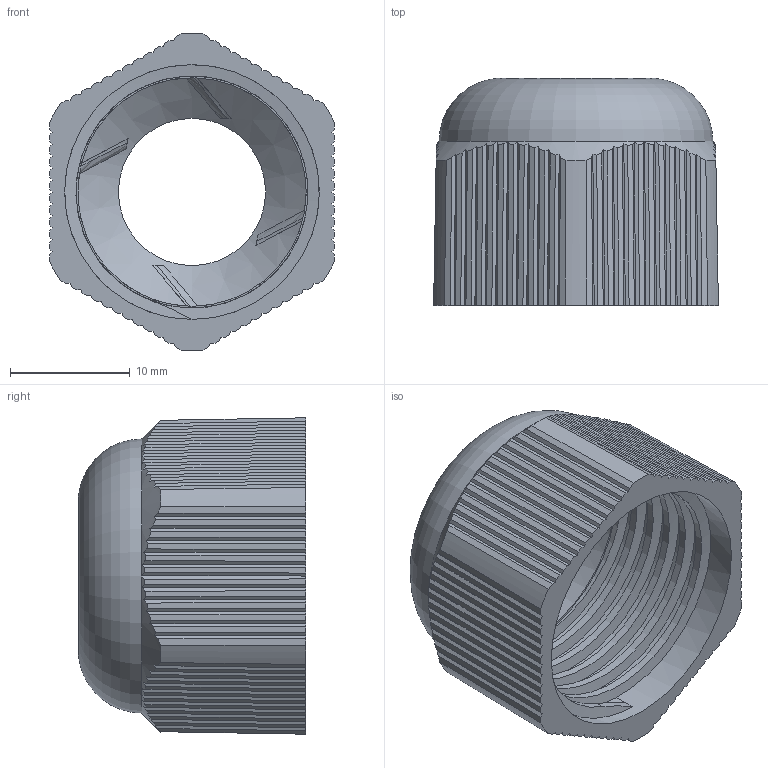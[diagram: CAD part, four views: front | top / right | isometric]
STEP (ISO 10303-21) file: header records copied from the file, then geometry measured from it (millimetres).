
FILE_DESCRIPTION (( 'STEP AP203' ), '1' );
FILE_NAME ('Ãàéêà öàíãîâàÿ (PG13.5).STEP', '2020-08-06T09:28:59', ( '' ), ( '' ), 'SwSTEP 2.0', 'SolidWorks 2019', '' );
FILE_SCHEMA (( 'CONFIG_CONTROL_DESIGN' ));
Length unit declared in the file: millimetre
Products named in the file (1): Ãàéêà öàíãîâàÿ (PG13.5)
Bounding box: 23.8 x 18.97 x 26.49 mm (x, y, z)
Volume: 2757.4 mm3; surface area: 3704.4 mm2
Topology: 1 solids, 1 shells, 247 faces, 729 edges, 484 vertices
Faces by surface type: plane 215, cone 12, cylinder 11, bspline 7, torus 2
Full cylindrical faces by diameter (mm): 12.3 x1, 19.1 x1, 21.3 x6
Entity records: 9658 total; most frequent: CARTESIAN_POINT 3716, ORIENTED_EDGE 1402, DIRECTION 941, EDGE_CURVE 701, VERTEX_POINT 469, VECTOR 415, LINE 415, AXIS2_PLACEMENT_3D 263
